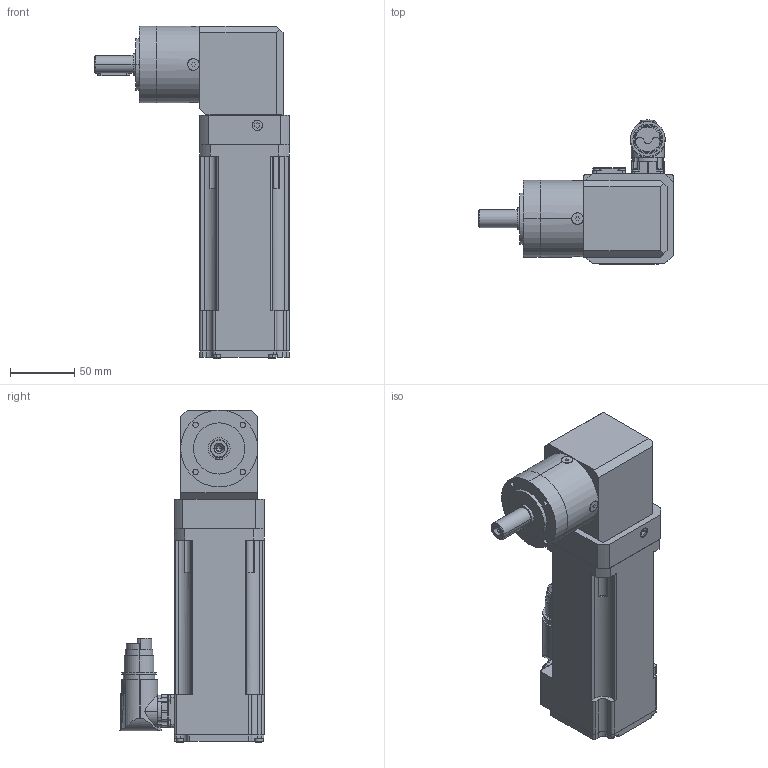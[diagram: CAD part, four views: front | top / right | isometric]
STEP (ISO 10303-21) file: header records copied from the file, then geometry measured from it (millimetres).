
FILE_DESCRIPTION(('STEP AP214'),'1');
FILE_NAME('cctmp_9F91671C-7AB3-4D45-8A0D-6720DB49423F_2020_11_25_14_50_12_414..stp','2020-11-25T13:50:13',('Bernecker + Rainer Industrie Elektronik Ges. mbH (B&R)'),('CADClick - www.CADClick.com'),'Spatial InterOp 3D',' ','unknown authorization');
FILE_SCHEMA(('AUTOMOTIVE_DESIGN'));
Length unit declared in the file: millimetre
Products named in the file (3): 8GA40-060--005S2J3; 8LSAA2.D9045S200-3
Assembly tree (2 placements, depth 2):
  (unnamed)
    8GA40-060--005S2J3
    8LSAA2.D9045S200-3
Bounding box: 152 x 112.38 x 259 mm (x, y, z)
Volume: 1261081.9 mm3; surface area: 120737.2 mm2
Topology: 2 solids, 6 shells, 979 faces, 2509 edges, 1614 vertices
Faces by surface type: plane 478, cylinder 303, cone 114, torus 68, sphere 16
Entity records: 39075 total; most frequent: CARTESIAN_POINT 7069, DIRECTION 5217, ORIENTED_EDGE 4978, EDGE_CURVE 2489, AXIS2_PLACEMENT_3D 1936, VERTEX_POINT 1614, LINE 1345, VECTOR 1345
